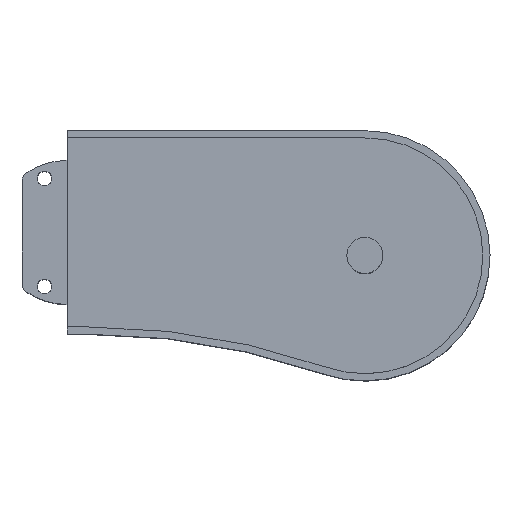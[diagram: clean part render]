
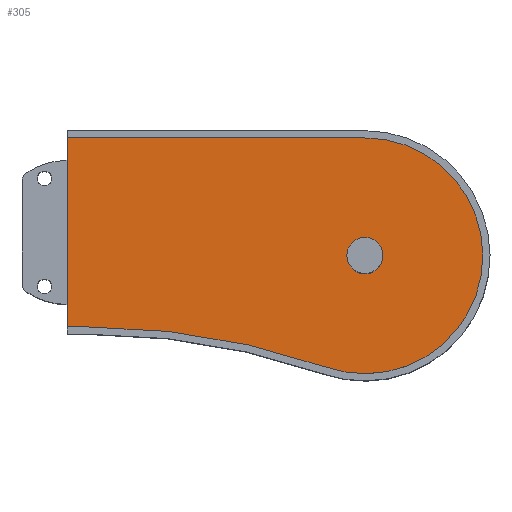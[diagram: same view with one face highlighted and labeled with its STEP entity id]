
A CAD part, top view. The second image highlights one B-rep face of the part: STEP entity #305.
In plain terms, the highlighted planar face has unit normal (0, 0, 1).
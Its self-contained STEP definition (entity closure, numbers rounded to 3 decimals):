
#1 = VERTEX_POINT ( 'NONE', #511 ) ;
#17 = CARTESIAN_POINT ( 'NONE',  ( -69.5, -4., 60. ) ) ;
#25 = EDGE_CURVE ( 'NONE', #947, #825, #1158, .T. ) ;
#45 = CARTESIAN_POINT ( 'NONE',  ( -59.5, -69.5, 60. ) ) ;
#83 = FACE_OUTER_BOUND ( 'NONE', #827, .T. ) ;
#100 = AXIS2_PLACEMENT_3D ( 'NONE', #1071, #402, #1286 ) ;
#134 = ORIENTED_EDGE ( 'NONE', *, *, #493, .F. ) ;
#139 = AXIS2_PLACEMENT_3D ( 'NONE', #1269, #497, #143 ) ;
#143 = DIRECTION ( 'NONE',  ( 1., 0., 0. ) ) ;
#192 = ORIENTED_EDGE ( 'NONE', *, *, #341, .T. ) ;
#233 = AXIS2_PLACEMENT_3D ( 'NONE', #1146, #486, #366 ) ;
#257 = VECTOR ( 'NONE', #268, 1000. ) ;
#268 = DIRECTION ( 'NONE',  ( -1., 0., 0. ) ) ;
#298 = CARTESIAN_POINT ( 'NONE',  ( -235., -16.5, 60. ) ) ;
#305 = ADVANCED_FACE ( 'NONE', ( #627, #83 ), #590, .F. ) ;
#341 = EDGE_CURVE ( 'NONE', #566, #1115, #351, .T. ) ;
#351 = CIRCLE ( 'NONE', #785, 10. ) ;
#366 = DIRECTION ( 'NONE',  ( -1., 0., 0. ) ) ;
#402 = DIRECTION ( 'NONE',  ( 0., 0., -1. ) ) ;
#414 = DIRECTION ( 'NONE',  ( -1., 0., 0. ) ) ;
#415 = VERTEX_POINT ( 'NONE', #17 ) ;
#441 = CIRCLE ( 'NONE', #1440, 10. ) ;
#486 = DIRECTION ( 'NONE',  ( 0., 0., -1. ) ) ;
#493 = EDGE_CURVE ( 'NONE', #415, #1367, #1156, .T. ) ;
#497 = DIRECTION ( 'NONE',  ( 0., 0., 1. ) ) ;
#511 = CARTESIAN_POINT ( 'NONE',  ( -223.571, -109., 60. ) ) ;
#527 = LINE ( 'NONE', #1383, #257 ) ;
#529 = ORIENTED_EDGE ( 'NONE', *, *, #710, .T. ) ;
#543 = CARTESIAN_POINT ( 'NONE',  ( -235., -109., 60. ) ) ;
#551 = EDGE_CURVE ( 'NONE', #1, #825, #527, .T. ) ;
#559 = EDGE_CURVE ( 'NONE', #1115, #566, #441, .T. ) ;
#566 = VERTEX_POINT ( 'NONE', #45 ) ;
#579 = LINE ( 'NONE', #1082, #1345 ) ;
#590 = PLANE ( 'NONE',  #233 ) ;
#627 = FACE_BOUND ( 'NONE', #779, .T. ) ;
#706 = DIRECTION ( 'NONE',  ( 0., 0., -1. ) ) ;
#710 = EDGE_CURVE ( 'NONE', #415, #947, #579, .T. ) ;
#779 = EDGE_LOOP ( 'NONE', ( #192, #1405 ) ) ;
#785 = AXIS2_PLACEMENT_3D ( 'NONE', #1257, #706, #1050 ) ;
#825 = VERTEX_POINT ( 'NONE', #543 ) ;
#827 = EDGE_LOOP ( 'NONE', ( #1040, #1178, #134, #529, #1104 ) ) ;
#830 = CARTESIAN_POINT ( 'NONE',  ( -69.5, -69.5, 60. ) ) ;
#834 = DIRECTION ( 'NONE',  ( -1., 0., 0. ) ) ;
#947 = VERTEX_POINT ( 'NONE', #1030 ) ;
#985 = CARTESIAN_POINT ( 'NONE',  ( -90.995, -131.373, 60. ) ) ;
#995 = CIRCLE ( 'NONE', #139, 404. ) ;
#1009 = EDGE_CURVE ( 'NONE', #1367, #1, #995, .T. ) ;
#1030 = CARTESIAN_POINT ( 'NONE',  ( -235., -4., 60. ) ) ;
#1040 = ORIENTED_EDGE ( 'NONE', *, *, #551, .F. ) ;
#1050 = DIRECTION ( 'NONE',  ( -1., 0., 0. ) ) ;
#1071 = CARTESIAN_POINT ( 'NONE',  ( -69.5, -69.5, 60. ) ) ;
#1082 = CARTESIAN_POINT ( 'NONE',  ( -69.5, -4., 60. ) ) ;
#1104 = ORIENTED_EDGE ( 'NONE', *, *, #25, .T. ) ;
#1115 = VERTEX_POINT ( 'NONE', #1376 ) ;
#1146 = CARTESIAN_POINT ( 'NONE',  ( -69.5, -69.5, 60. ) ) ;
#1156 = CIRCLE ( 'NONE', #100, 65.5 ) ;
#1158 = LINE ( 'NONE', #298, #1233 ) ;
#1178 = ORIENTED_EDGE ( 'NONE', *, *, #1009, .F. ) ;
#1233 = VECTOR ( 'NONE', #1425, 1000. ) ;
#1257 = CARTESIAN_POINT ( 'NONE',  ( -69.5, -69.5, 60. ) ) ;
#1269 = CARTESIAN_POINT ( 'NONE',  ( -223.571, -513., 60. ) ) ;
#1286 = DIRECTION ( 'NONE',  ( -1., 0., 0. ) ) ;
#1345 = VECTOR ( 'NONE', #414, 1000. ) ;
#1367 = VERTEX_POINT ( 'NONE', #985 ) ;
#1376 = CARTESIAN_POINT ( 'NONE',  ( -79.5, -69.5, 60. ) ) ;
#1383 = CARTESIAN_POINT ( 'NONE',  ( -223.571, -109., 60. ) ) ;
#1390 = DIRECTION ( 'NONE',  ( 0., 0., -1. ) ) ;
#1405 = ORIENTED_EDGE ( 'NONE', *, *, #559, .T. ) ;
#1425 = DIRECTION ( 'NONE',  ( 0., -1., 0. ) ) ;
#1440 = AXIS2_PLACEMENT_3D ( 'NONE', #830, #1390, #834 ) ;
